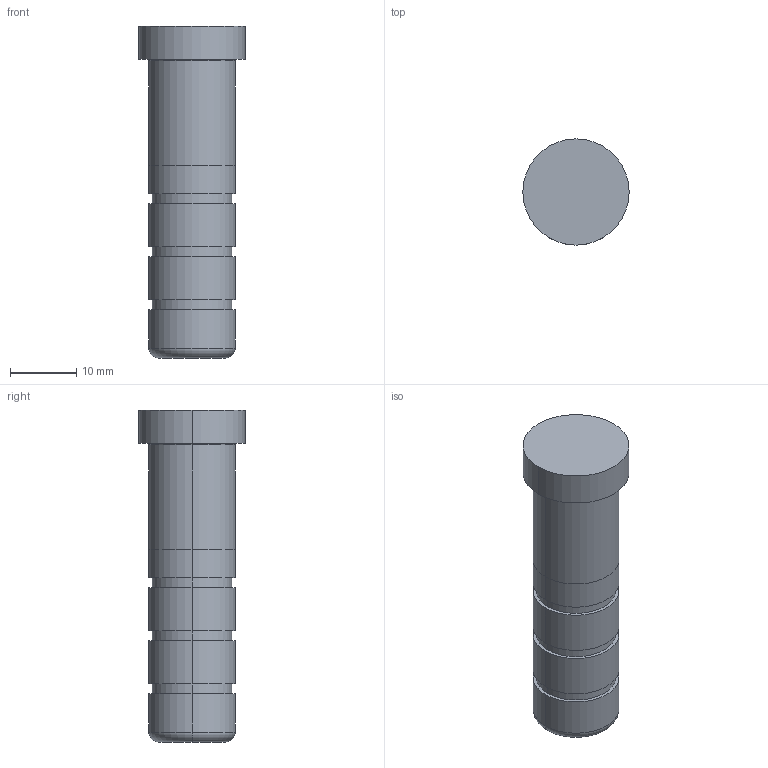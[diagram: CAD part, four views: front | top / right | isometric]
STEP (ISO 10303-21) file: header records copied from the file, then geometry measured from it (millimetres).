
FILE_DESCRIPTION(/* description */ (''),/* implementation_level */ '2;1');
FILE_NAME(/* name */ '3d_sgoh13-50_05224_r00.stp',/* time_stamp */ '2011-01-10T14:11:10+09:00',/* author */ ('MISUMI'),/* organization */ (''),/* preprocessor_version */ 'ST-DEVELOPER v11',/* originating_system */ 'UGS - NX 5.0',/* authorisation */ '');
FILE_SCHEMA (('CONFIG_CONTROL_DESIGN'));
Length unit declared in the file: millimetre
Products named in the file (1): 3d_sgoh13-50_05224_r00
Bounding box: 16 x 16 x 50 mm (x, y, z)
Volume: 6871.8 mm3; surface area: 2563.3 mm2
Topology: 1 solids, 1 shells, 31 faces, 60 edges, 38 vertices
Faces by surface type: cylinder 18, plane 9, torus 4
Entity records: 894 total; most frequent: DIRECTION 166, CARTESIAN_POINT 130, ORIENTED_EDGE 120, AXIS2_PLACEMENT_3D 74, EDGE_CURVE 60, CIRCLE 42, EDGE_LOOP 38, VERTEX_POINT 38
